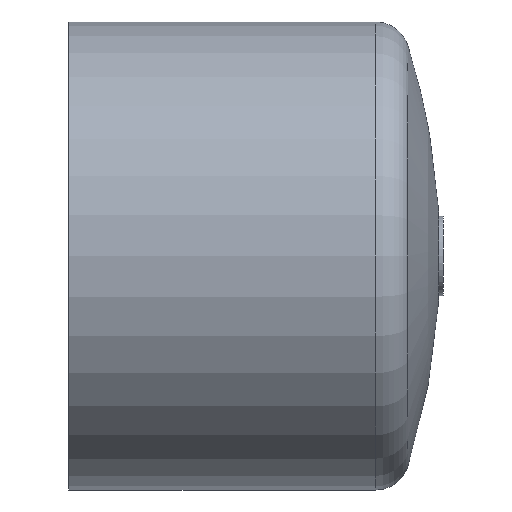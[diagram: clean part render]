
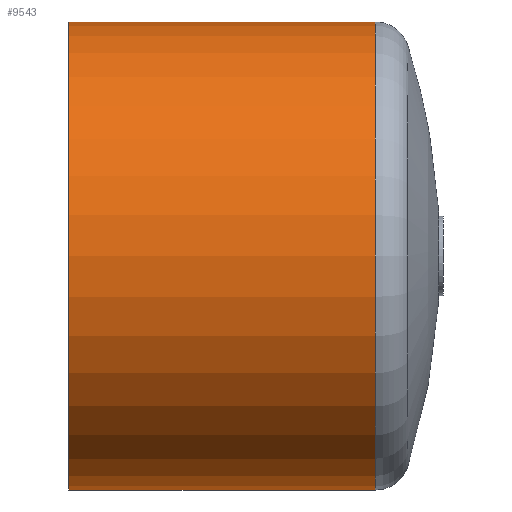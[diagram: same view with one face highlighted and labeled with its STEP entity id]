
A CAD part, front view. The second image highlights one B-rep face of the part: STEP entity #9543.
In plain terms, the highlighted cylindrical face has radius 100 mm (diameter 200 mm), a full revolution.
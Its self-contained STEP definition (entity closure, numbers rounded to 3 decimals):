
#22=CYLINDRICAL_SURFACE('',#10469,100.);
#4440=ORIENTED_EDGE('',*,*,#5941,.T.);
#4441=ORIENTED_EDGE('',*,*,#5942,.F.);
#5941=EDGE_CURVE('',#6796,#6796,#7497,.T.);
#5942=EDGE_CURVE('',#6797,#6797,#7498,.T.);
#6796=VERTEX_POINT('',#23923);
#6797=VERTEX_POINT('',#23926);
#7497=CIRCLE('',#10468,100.);
#7498=CIRCLE('',#10470,100.);
#8171=EDGE_LOOP('',(#4440));
#8172=EDGE_LOOP('',(#4441));
#8847=FACE_BOUND('',#8171,.T.);
#8848=FACE_BOUND('',#8172,.T.);
#9543=ADVANCED_FACE('',(#8847,#8848),#22,.T.);
#10468=AXIS2_PLACEMENT_3D('',#23922,#12294,#12295);
#10469=AXIS2_PLACEMENT_3D('',#23924,#12296,#12297);
#10470=AXIS2_PLACEMENT_3D('',#23925,#12298,#12299);
#12294=DIRECTION('',(-1.,0.,0.));
#12295=DIRECTION('',(0.,0.,1.));
#12296=DIRECTION('',(-1.,0.,0.));
#12297=DIRECTION('',(0.,0.,1.));
#12298=DIRECTION('',(-1.,0.,0.));
#12299=DIRECTION('',(0.,0.,1.));
#23922=CARTESIAN_POINT('',(131.,0.,0.));
#23923=CARTESIAN_POINT('',(131.,0.,100.));
#23924=CARTESIAN_POINT('',(60.,0.,0.));
#23925=CARTESIAN_POINT('',(0.,0.,0.));
#23926=CARTESIAN_POINT('',(0.,0.,100.));
